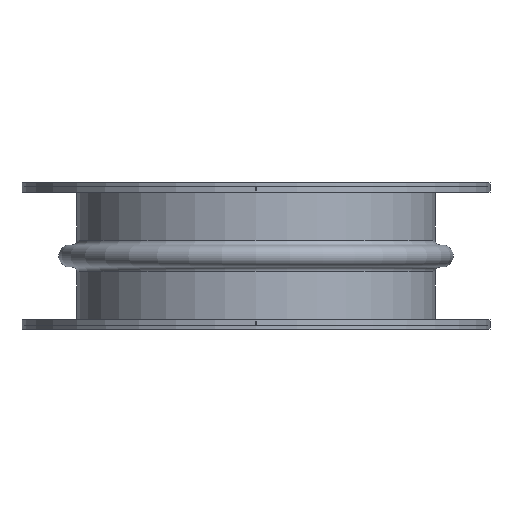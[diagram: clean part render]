
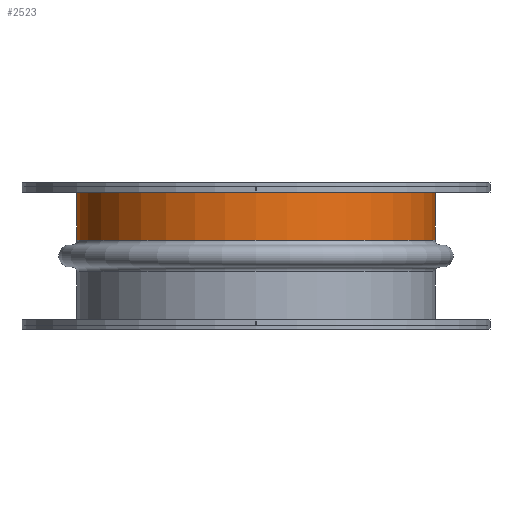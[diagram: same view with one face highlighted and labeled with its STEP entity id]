
A CAD part, front view. The second image highlights one B-rep face of the part: STEP entity #2523.
In plain terms, the highlighted cylindrical face has radius 311.15 mm (diameter 622.3 mm), a full revolution.
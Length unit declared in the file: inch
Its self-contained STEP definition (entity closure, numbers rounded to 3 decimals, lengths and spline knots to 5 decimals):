
#216=FACE_OUTER_BOUND('',#342,.T.);
#342=EDGE_LOOP('',(#1636,#1637,#1638,#1639,#1640));
#636=LINE('',#3811,#756);
#756=VECTOR('',#3017,12.25);
#876=CIRCLE('',#2676,12.25);
#877=CIRCLE('',#2677,12.25);
#878=CIRCLE('',#2678,12.25);
#1086=VERTEX_POINT('',#3807);
#1087=VERTEX_POINT('',#3808);
#1088=VERTEX_POINT('',#3810);
#1306=EDGE_CURVE('',#1086,#1087,#876,.T.);
#1307=EDGE_CURVE('',#1086,#1088,#636,.T.);
#1308=EDGE_CURVE('',#1088,#1088,#877,.T.);
#1309=EDGE_CURVE('',#1087,#1086,#878,.T.);
#1636=ORIENTED_EDGE('',*,*,#1306,.F.);
#1637=ORIENTED_EDGE('',*,*,#1307,.T.);
#1638=ORIENTED_EDGE('',*,*,#1308,.F.);
#1639=ORIENTED_EDGE('',*,*,#1307,.F.);
#1640=ORIENTED_EDGE('',*,*,#1309,.F.);
#2296=CYLINDRICAL_SURFACE('',#2675,12.25);
#2523=ADVANCED_FACE('',(#216),#2296,.T.);
#2675=AXIS2_PLACEMENT_3D('',#3806,#3013,#3014);
#2676=AXIS2_PLACEMENT_3D('',#3809,#3015,#3016);
#2677=AXIS2_PLACEMENT_3D('',#3812,#3018,#3019);
#2678=AXIS2_PLACEMENT_3D('',#3813,#3020,#3021);
#3013=DIRECTION('center_axis',(0.,0.,
-1.));
#3014=DIRECTION('ref_axis',(0.,-1.,0.));
#3015=DIRECTION('center_axis',(0.,0.,
-1.));
#3016=DIRECTION('ref_axis',(-1.,0.,0.));
#3017=DIRECTION('',(0.,0.,1.));
#3018=DIRECTION('center_axis',(0.,0.,
1.));
#3019=DIRECTION('ref_axis',(0.,-1.,0.));
#3020=DIRECTION('center_axis',(0.,0.,
-1.));
#3021=DIRECTION('ref_axis',(-1.,0.,0.));
#3806=CARTESIAN_POINT('Origin',(0.,0.,
2.91667));
#3807=CARTESIAN_POINT('',(0.,12.25,1.08333));
#3808=CARTESIAN_POINT('',(-12.25,0.,1.08333));
#3809=CARTESIAN_POINT('Origin',(0.,0.,
1.08333));
#3810=CARTESIAN_POINT('',(0.,12.25,4.75));
#3811=CARTESIAN_POINT('',(0.,12.25,2.91667));
#3812=CARTESIAN_POINT('Origin',(0.,0.,
4.75));
#3813=CARTESIAN_POINT('Origin',(0.,0.,
1.08333));
